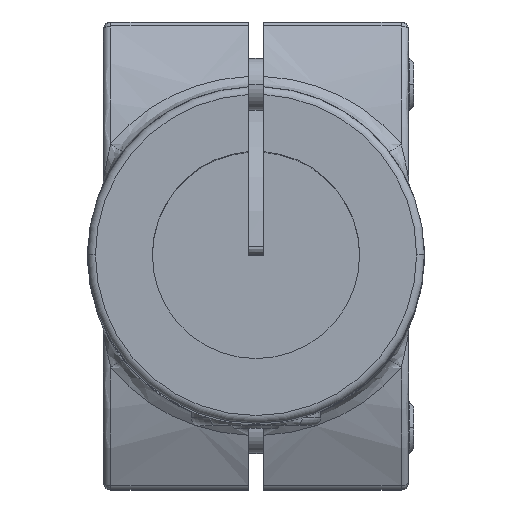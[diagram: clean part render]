
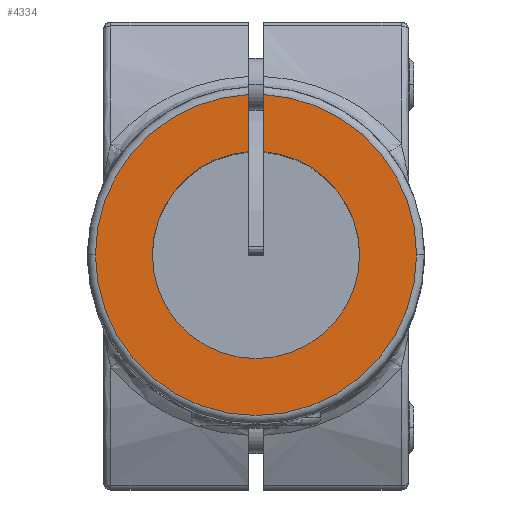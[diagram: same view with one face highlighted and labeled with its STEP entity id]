
A CAD part, top view. The second image highlights one B-rep face of the part: STEP entity #4334.
In plain terms, the highlighted planar face has unit normal (0, 0, 1) as drawn and (0, 0, -1) by its records, which use the part's own axes.
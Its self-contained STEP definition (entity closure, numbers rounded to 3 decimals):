
#549 = DIRECTION ( 'NONE',  ( 1., 0., 0. ) ) ;
#1464 = DIRECTION ( 'NONE',  ( 0., 0., -1. ) ) ;
#1666 = DIRECTION ( 'NONE',  ( 0., 1., 0. ) ) ;
#1700 = DIRECTION ( 'NONE',  ( 0., 0., -1. ) ) ;
#1826 = DIRECTION ( 'NONE',  ( -1., 0., 0. ) ) ;
#2014 = CARTESIAN_POINT ( 'NONE',  ( 31., 0., 0. ) ) ;
#2186 = ORIENTED_EDGE ( 'NONE', *, *, #8433, .T. ) ;
#2379 = CARTESIAN_POINT ( 'NONE',  ( 20., 0., 0. ) ) ;
#2771 = CIRCLE ( 'NONE', #12005, 20. ) ;
#2858 = FACE_OUTER_BOUND ( 'NONE', #10635, .T. ) ;
#3026 = VERTEX_POINT ( 'NONE', #7455 ) ;
#3470 = EDGE_CURVE ( 'NONE', #6738, #12126, #3853, .T. ) ;
#3492 = ORIENTED_EDGE ( 'NONE', *, *, #12696, .T. ) ;
#3509 = CARTESIAN_POINT ( 'NONE',  ( -1.5, 19.944, 0. ) ) ;
#3596 = CARTESIAN_POINT ( 'NONE',  ( 1.5, 0., 0. ) ) ;
#3853 = CIRCLE ( 'NONE', #7036, 20. ) ;
#3924 = VERTEX_POINT ( 'NONE', #2014 ) ;
#4207 = AXIS2_PLACEMENT_3D ( 'NONE', #10331, #1464, #9171 ) ;
#4334 = ADVANCED_FACE ( 'NONE', ( #2858 ), #9227, .F. ) ;
#4741 = EDGE_CURVE ( 'NONE', #12126, #11897, #10835, .T. ) ;
#4773 = EDGE_CURVE ( 'NONE', #6738, #10417, #15385, .T. ) ;
#4918 = AXIS2_PLACEMENT_3D ( 'NONE', #12571, #11406, #8947 ) ;
#4954 = VERTEX_POINT ( 'NONE', #12726 ) ;
#5419 = DIRECTION ( 'NONE',  ( 0., 0., 1. ) ) ;
#5946 = CARTESIAN_POINT ( 'NONE',  ( 0., 0., 0. ) ) ;
#6010 = DIRECTION ( 'NONE',  ( 0., -1., 0. ) ) ;
#6104 = ORIENTED_EDGE ( 'NONE', *, *, #4773, .F. ) ;
#6293 = VECTOR ( 'NONE', #6010, 1000. ) ;
#6421 = AXIS2_PLACEMENT_3D ( 'NONE', #9157, #1700, #549 ) ;
#6738 = VERTEX_POINT ( 'NONE', #3509 ) ;
#7036 = AXIS2_PLACEMENT_3D ( 'NONE', #9088, #8024, #11553 ) ;
#7455 = CARTESIAN_POINT ( 'NONE',  ( 1.5, 30.964, 0. ) ) ;
#8024 = DIRECTION ( 'NONE',  ( 0., 0., 1. ) ) ;
#8339 = CARTESIAN_POINT ( 'NONE',  ( -20., 0., 0. ) ) ;
#8433 = EDGE_CURVE ( 'NONE', #3026, #3924, #10813, .T. ) ;
#8947 = DIRECTION ( 'NONE',  ( 1., 0., 0. ) ) ;
#9036 = CARTESIAN_POINT ( 'NONE',  ( -1.5, 30.964, 0. ) ) ;
#9088 = CARTESIAN_POINT ( 'NONE',  ( 0., 0., 0. ) ) ;
#9157 = CARTESIAN_POINT ( 'NONE',  ( 0., 0., 0. ) ) ;
#9171 = DIRECTION ( 'NONE',  ( 1., 0., 0. ) ) ;
#9227 = PLANE ( 'NONE',  #13151 ) ;
#9289 = ORIENTED_EDGE ( 'NONE', *, *, #11040, .T. ) ;
#9463 = DIRECTION ( 'NONE',  ( 1., 0., 0. ) ) ;
#9788 = EDGE_CURVE ( 'NONE', #16021, #10417, #13546, .T. ) ;
#10322 = DIRECTION ( 'NONE',  ( -1., 0., 0. ) ) ;
#10331 = CARTESIAN_POINT ( 'NONE',  ( 0., 0., 0. ) ) ;
#10417 = VERTEX_POINT ( 'NONE', #9036 ) ;
#10635 = EDGE_LOOP ( 'NONE', ( #12034, #2186, #3492, #11918, #6104, #15068, #16011, #9289 ) ) ;
#10813 = CIRCLE ( 'NONE', #4207, 31. ) ;
#10835 = CIRCLE ( 'NONE', #12400, 20. ) ;
#11040 = EDGE_CURVE ( 'NONE', #11897, #4954, #2771, .T. ) ;
#11047 = LINE ( 'NONE', #3596, #6293 ) ;
#11375 = DIRECTION ( 'NONE',  ( 0., 0., 1. ) ) ;
#11406 = DIRECTION ( 'NONE',  ( 0., 0., -1. ) ) ;
#11553 = DIRECTION ( 'NONE',  ( -1., 0., 0. ) ) ;
#11761 = DIRECTION ( 'NONE',  ( 0., 0., 1. ) ) ;
#11897 = VERTEX_POINT ( 'NONE', #2379 ) ;
#11918 = ORIENTED_EDGE ( 'NONE', *, *, #9788, .T. ) ;
#12005 = AXIS2_PLACEMENT_3D ( 'NONE', #5946, #11375, #10322 ) ;
#12034 = ORIENTED_EDGE ( 'NONE', *, *, #14615, .F. ) ;
#12126 = VERTEX_POINT ( 'NONE', #8339 ) ;
#12400 = AXIS2_PLACEMENT_3D ( 'NONE', #12911, #11761, #1826 ) ;
#12571 = CARTESIAN_POINT ( 'NONE',  ( 0., 0., 0. ) ) ;
#12696 = EDGE_CURVE ( 'NONE', #3924, #16021, #14649, .T. ) ;
#12726 = CARTESIAN_POINT ( 'NONE',  ( 1.5, 19.944, 0. ) ) ;
#12911 = CARTESIAN_POINT ( 'NONE',  ( 0., 0., 0. ) ) ;
#13151 = AXIS2_PLACEMENT_3D ( 'NONE', #15567, #5419, #9463 ) ;
#13459 = VECTOR ( 'NONE', #1666, 1000. ) ;
#13546 = CIRCLE ( 'NONE', #6421, 31. ) ;
#13739 = CARTESIAN_POINT ( 'NONE',  ( -31., 0., 0. ) ) ;
#14226 = CARTESIAN_POINT ( 'NONE',  ( -1.5, 0., 0. ) ) ;
#14615 = EDGE_CURVE ( 'NONE', #3026, #4954, #11047, .T. ) ;
#14649 = CIRCLE ( 'NONE', #4918, 31. ) ;
#15068 = ORIENTED_EDGE ( 'NONE', *, *, #3470, .T. ) ;
#15385 = LINE ( 'NONE', #14226, #13459 ) ;
#15567 = CARTESIAN_POINT ( 'NONE',  ( 0., 0., 0. ) ) ;
#16011 = ORIENTED_EDGE ( 'NONE', *, *, #4741, .T. ) ;
#16021 = VERTEX_POINT ( 'NONE', #13739 ) ;
